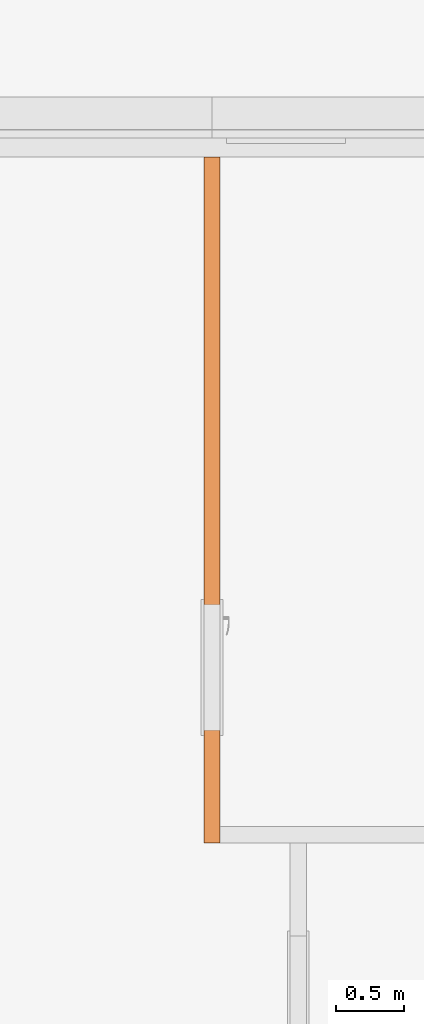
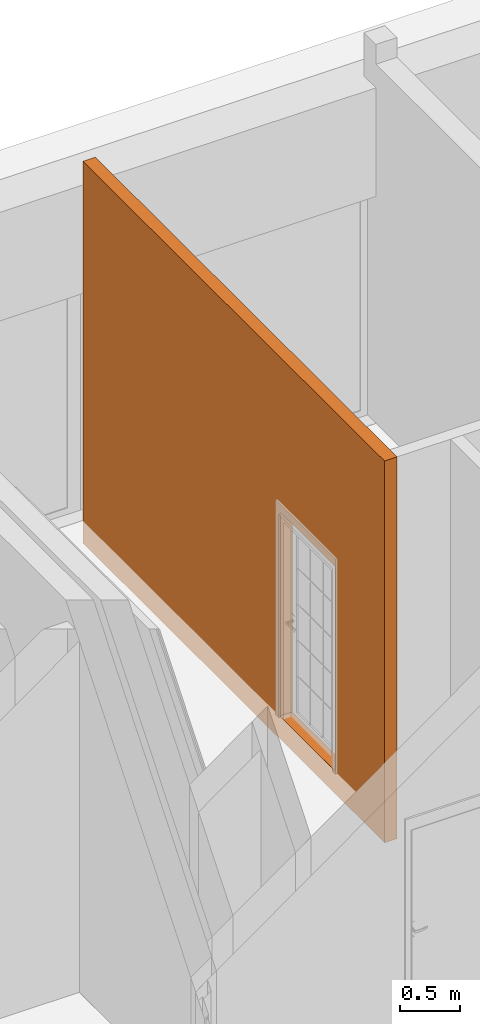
# One storey, part 21 of 46: 1 proxy, 1 opening.
"""IFC2X3 building model written with IfcOpenShell, lengths in millimetres."""

from ifc_helpers import new_model, entity, si_unit, converted_unit, derived_unit, money_unit, direction, frame, origin_with_axes, origin_2d_with_axis, place, context, subcontext, project, spatial, rectangle, extrude, faceted_brep, material, type_object, element, save


model = new_model("IFC2X3")

# Units and contexts
model_context = context("Model", 3, precision=0.01, world=origin_with_axes(), true_north=direction((0.34421633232, 0.938890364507)))
body_context = subcontext(model_context, "Body", "Model", "MODEL_VIEW")
ifc_project = project(units=[si_unit("LENGTHUNIT", "METRE", prefix="MILLI"), si_unit("AREAUNIT", "SQUARE_METRE"), si_unit("VOLUMEUNIT", "CUBIC_METRE"), converted_unit("PLANEANGLEUNIT", "DEGREE", entity("IfcPlaneAngleMeasure", 0.0174532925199), si_unit("PLANEANGLEUNIT", "RADIAN"), dimensions=[0, 0, 0, 0, 0, 0, 0]), si_unit("SOLIDANGLEUNIT", "STERADIAN"), money_unit("USD"), converted_unit("TIMEUNIT", "Year", entity("IfcTimeMeasure", 31556926.0), si_unit("TIMEUNIT", "SECOND"), dimensions=[0, 0, 1, 0, 0, 0, 0]), si_unit("MASSUNIT", "GRAM", prefix="KILO"), si_unit("THERMODYNAMICTEMPERATUREUNIT", "DEGREE_CELSIUS"), si_unit("LUMINOUSINTENSITYUNIT", "LUMEN"), si_unit("ENERGYUNIT", "JOULE", prefix="MEGA"), derived_unit("THERMALCONDUCTANCEUNIT", [(si_unit("POWERUNIT", "WATT"), 1), (si_unit("LENGTHUNIT", "METRE"), -1), (si_unit("THERMODYNAMICTEMPERATUREUNIT", "KELVIN"), -1)]), derived_unit("SPECIFICHEATCAPACITYUNIT", [(si_unit("ENERGYUNIT", "JOULE"), 1), (si_unit("MASSUNIT", "GRAM", prefix="KILO"), -1), (si_unit("THERMODYNAMICTEMPERATUREUNIT", "KELVIN"), -1)]), derived_unit("MASSDENSITYUNIT", [(si_unit("MASSUNIT", "GRAM", prefix="KILO"), 1), (si_unit("VOLUMEUNIT", "CUBIC_METRE"), -1)])], contexts=[model_context])

# Site, building, storey
site_placement = place(None, origin_with_axes())
site = spatial("IfcSite", under=ifc_project, at=site_placement, Name="USTRONIE MORSKIE", CompositionType="ELEMENT")
building_placement = place(site_placement, origin_with_axes())
building = spatial("IfcBuilding", under=site, at=building_placement, Name="Budynek", CompositionType="ELEMENT")
storey_placement = place(building_placement, origin_with_axes())
storey = spatial("IfcBuildingStorey", under=building, at=storey_placement, Name="PARTER", CompositionType="ELEMENT", Elevation=0.0)

# Proxy, opening
ifc_material = material(Name="Bloczki silikatowe")
building_element_proxy_type = type_object("IfcBuildingElementProxyType", Name="Bloczki silikatowe 120", PredefinedType="NOTDEFINED")
proxy_placement = place(storey_placement, frame((370467.913786, 739651.199937, -230.0), z_axis=(0.0, 0.0, 1.0), x_axis=(0.0, 1.0, 0.0)))
proxy = element("IfcBuildingElementProxy", 1, at=proxy_placement, inside=storey, type_object=building_element_proxy_type, material=ifc_material, Name="SW-04", context=body_context, shape_type="Brep", body=[
    faceted_brep([(-59.9999999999, -60.0, 0.0), (4949.99909883, -60.0, 0.0), (4949.99938474, -60.0, 3870.0), (-59.9999999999, -60.0, 3870.0), (-59.9999999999, 60.0, 0.0), (4949.99909883, 60.0, 0.0), (4949.99938474, 60.0, 3870.0), (-59.9999999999, 60.0, 3870.0)], [[[0, 1, 2, 3]], [[4, 5, 1, 0]], [[2, 1, 5, 6]], [[3, 2, 6, 7]], [[4, 0, 3, 7]], [[6, 5, 4, 7]]]),
])
opening_placement = place(proxy_placement, frame((1220.0, 0.0, 230.0), z_axis=(0.0, 0.0, 1.0), x_axis=(1.0, 0.0, 0.0)))
element("IfcOpeningElement", 2, at=opening_placement, cuts=proxy, Name="Dw.3", context=body_context, shape_type="SweptSolid", body=[
    extrude(rectangle(XDim=920.0, YDim=2070.0, at=origin_2d_with_axis()), frame((0.0, -120.0, 1035.0), z_axis=(0.0, 1.0, 0.0), x_axis=(-1.0, 0.0, 0.0)), (0.0, 0.0, 1.0), 360.0),
    extrude(rectangle(XDim=994.0, YDim=2177.0, at=origin_2d_with_axis()), frame((0.0, -60.0, 1088.5), z_axis=(0.0, 1.0, 0.0), x_axis=(-1.0, 0.0, 0.0)), (0.0, 0.0, -1.0), 120.0),
    extrude(rectangle(XDim=994.0, YDim=2177.0, at=origin_2d_with_axis()), frame((0.0, 60.0, 1088.5), z_axis=(0.0, -1.0, 0.0), x_axis=(-1.0, 0.0, 0.0)), (0.0, 0.0, -1.0), 120.0),
])

save(model, "model.ifc")
